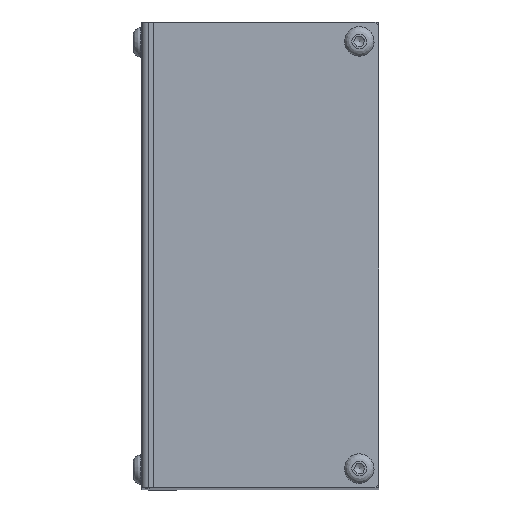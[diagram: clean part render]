
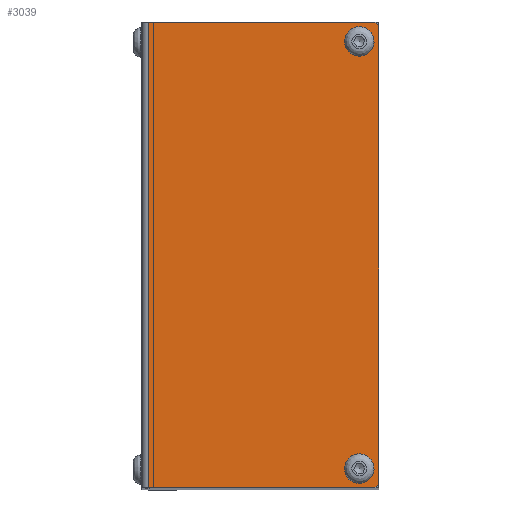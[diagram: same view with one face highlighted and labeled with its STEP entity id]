
A CAD part, top view. The second image highlights one B-rep face of the part: STEP entity #3039.
In plain terms, the highlighted planar face has unit normal (0, 0, 1).
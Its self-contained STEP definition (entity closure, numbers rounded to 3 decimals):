
#67=LINE('',#4737,#275);
#75=LINE('',#4755,#283);
#97=LINE('',#4810,#305);
#98=LINE('',#4812,#306);
#99=LINE('',#4813,#307);
#100=LINE('',#4814,#308);
#275=VECTOR('',#3743,1.414);
#283=VECTOR('',#3755,1.414);
#305=VECTOR('',#3817,120.);
#306=VECTOR('',#3820,58.2);
#307=VECTOR('',#3821,58.2);
#308=VECTOR('',#3822,118.);
#559=PLANE('',#3289);
#655=FACE_BOUND('',#991,.T.);
#656=FACE_BOUND('',#992,.T.);
#769=FACE_OUTER_BOUND('',#990,.T.);
#990=EDGE_LOOP('',(#2215,#2216,#2217,#2218,#2219,#2220));
#991=EDGE_LOOP('',(#2221));
#992=EDGE_LOOP('',(#2222));
#1192=CIRCLE('',#3290,3.8);
#1193=CIRCLE('',#3291,3.8);
#1375=VERTEX_POINT('',#4734);
#1376=VERTEX_POINT('',#4736);
#1383=VERTEX_POINT('',#4752);
#1384=VERTEX_POINT('',#4754);
#1394=VERTEX_POINT('',#4795);
#1395=VERTEX_POINT('',#4800);
#1398=VERTEX_POINT('',#4815);
#1399=VERTEX_POINT('',#4817);
#1674=EDGE_CURVE('',#1375,#1376,#67,.T.);
#1682=EDGE_CURVE('',#1383,#1384,#75,.T.);
#1713=EDGE_CURVE('',#1394,#1395,#97,.T.);
#1714=EDGE_CURVE('',#1394,#1375,#98,.T.);
#1715=EDGE_CURVE('',#1384,#1395,#99,.T.);
#1716=EDGE_CURVE('',#1376,#1383,#100,.T.);
#1717=EDGE_CURVE('',#1398,#1398,#1192,.T.);
#1718=EDGE_CURVE('',#1399,#1399,#1193,.T.);
#2215=ORIENTED_EDGE('',*,*,#1674,.F.);
#2216=ORIENTED_EDGE('',*,*,#1714,.F.);
#2217=ORIENTED_EDGE('',*,*,#1713,.T.);
#2218=ORIENTED_EDGE('',*,*,#1715,.F.);
#2219=ORIENTED_EDGE('',*,*,#1682,.F.);
#2220=ORIENTED_EDGE('',*,*,#1716,.F.);
#2221=ORIENTED_EDGE('',*,*,#1717,.T.);
#2222=ORIENTED_EDGE('',*,*,#1718,.T.);
#3039=ADVANCED_FACE('',(#769,#655,#656),#559,.F.);
#3289=AXIS2_PLACEMENT_3D('',#4811,#3818,#3819);
#3290=AXIS2_PLACEMENT_3D('',#4816,#3823,#3824);
#3291=AXIS2_PLACEMENT_3D('',#4818,#3825,#3826);
#3743=DIRECTION('',(0.707,-0.707,0.));
#3755=DIRECTION('',(-0.707,-0.707,0.));
#3817=DIRECTION('',(0.,-1.,0.));
#3818=DIRECTION('center_axis',(0.,0.,
-1.));
#3819=DIRECTION('ref_axis',(0.,-1.,0.));
#3820=DIRECTION('',(1.,0.,0.));
#3821=DIRECTION('',(-1.,0.,0.));
#3822=DIRECTION('',(0.,-1.,0.));
#3823=DIRECTION('center_axis',(0.,0.,
-1.));
#3824=DIRECTION('ref_axis',(0.91,-0.414,0.));
#3825=DIRECTION('center_axis',(0.,0.,
-1.));
#3826=DIRECTION('ref_axis',(0.91,-0.414,0.));
#4734=CARTESIAN_POINT('',(60.,120.,297.));
#4736=CARTESIAN_POINT('',(61.,119.,297.));
#4737=CARTESIAN_POINT('',(67.875,112.125,297.));
#4752=CARTESIAN_POINT('',(61.,1.,297.));
#4754=CARTESIAN_POINT('',(60.,0.,297.));
#4755=CARTESIAN_POINT('',(67.875,7.875,297.));
#4795=CARTESIAN_POINT('',(1.8,120.,297.));
#4800=CARTESIAN_POINT('',(1.8,0.,297.));
#4810=CARTESIAN_POINT('',(1.8,30.,297.));
#4811=CARTESIAN_POINT('Origin',(30.5,60.,297.));
#4812=CARTESIAN_POINT('',(0.,120.,297.));
#4813=CARTESIAN_POINT('',(61.,0.,297.));
#4814=CARTESIAN_POINT('',(61.,120.,297.));
#4815=CARTESIAN_POINT('',(59.459,113.427,297.));
#4816=CARTESIAN_POINT('Origin',(56.,115.,297.));
#4817=CARTESIAN_POINT('',(59.459,3.427,297.));
#4818=CARTESIAN_POINT('Origin',(56.,5.,297.));
